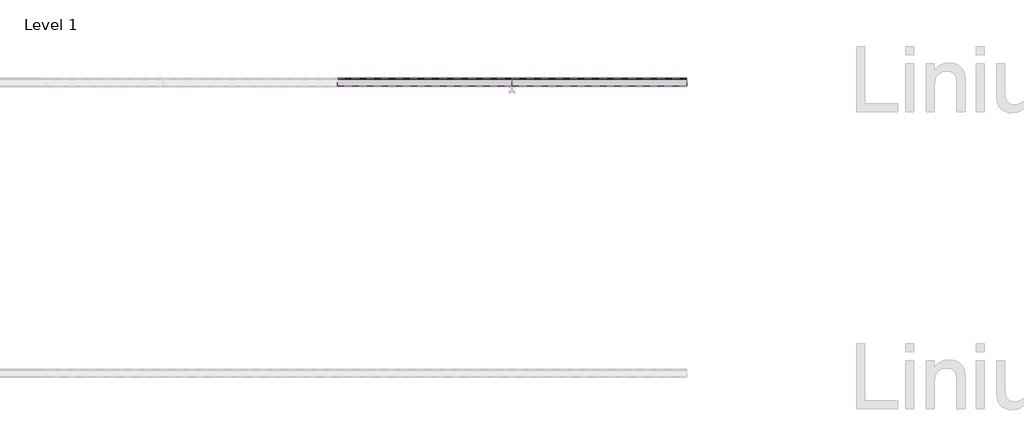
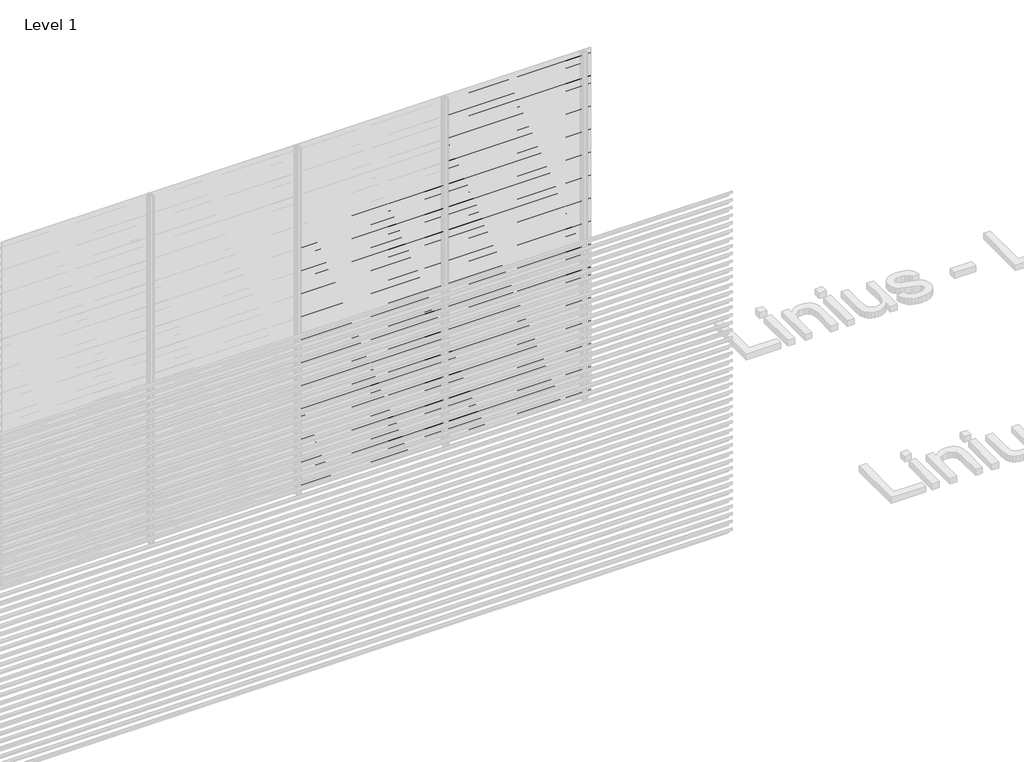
# One storey, part 33 of 540: 79 proxies.
"""IFC4 building model written with IfcOpenShell, lengths in millimetres."""

import ifcopenshell
import ifcopenshell.guid

model = None  # the IFC model being written
_history = None  # IfcOwnerHistory: only IFC2X3 demands one
_inside = {}  # id of a spatial element -> (the spatial element, [elements in it])
_under = {}  # id of a project, library or spatial element -> (it, [spatial elements below it])
_declared = {}  # id of a project -> (the project, [libraries it declares])
_typed = {}  # id of a type object -> (the type object, [elements of that type])
_made_of = {}  # id of a material, layer set ... -> (it, [elements and type objects made of it])


def new_model(schema):
    """Start an empty IFC model of exactly this schema.

    Asked for "IFC4X3", IfcOpenShell would pick the latest addendum, in which some entities
    have other attributes; the version numbers below select the first issue.
    IFC2X3 requires an IfcOwnerHistory on every rooted entity: one is made here for all.
    """
    global model, _history
    if schema == "IFC4X3":
        model = ifcopenshell.file(schema_version=(4, 3, 0, 0))
    else:
        model = ifcopenshell.file(schema=schema)
    _inside.clear()
    _under.clear()
    _declared.clear()
    _typed.clear()
    _made_of.clear()
    _history = None
    if model.schema == "IFC2X3":
        org = make("IfcOrganization", Name="unknown")
        user = make(
            "IfcPersonAndOrganization",
            ThePerson=make("IfcPerson", FamilyName="unknown"),
            TheOrganization=org,
        )
        app = make(
            "IfcApplication",
            ApplicationDeveloper=org,
            Version="unknown",
            ApplicationFullName="unknown",
            ApplicationIdentifier="unknown",
        )
        _history = make(
            "IfcOwnerHistory",
            OwningUser=user,
            OwningApplication=app,
            ChangeAction="ADDED",
            CreationDate=0,
        )
    return model


def make(cls, **values):
    """One entity of the class cls with the attributes given. An attribute that is None is left unset."""
    return model.create_entity(
        cls, **{name: value for name, value in values.items() if value is not None}
    )


def rooted(cls, **values):
    """An entity with a GlobalId (a new one), such as an element, a storey or a relation."""
    return make(cls, GlobalId=ifcopenshell.guid.new(), OwnerHistory=_history, **values)


def si_unit(unit_type, name, prefix=None):
    """IfcSIUnit, for example si_unit("LENGTHUNIT", "METRE", prefix="MILLI")."""
    return make("IfcSIUnit", UnitType=unit_type, Prefix=prefix, Name=name)


def assignment(units):
    """IfcUnitAssignment: the units of a project."""
    return None if units is None else make("IfcUnitAssignment", Units=units)


def point(xyz):
    """IfcCartesianPoint."""
    return None if xyz is None else make("IfcCartesianPoint", Coordinates=xyz)


def direction(xyz):
    """IfcDirection."""
    return None if xyz is None else make("IfcDirection", DirectionRatios=xyz)


def frame(location, z_axis=None, x_axis=None):
    """IfcAxis2Placement3D, a coordinate frame: its origin and axes. An axis left out is left unset."""
    return make(
        "IfcAxis2Placement3D",
        Location=point(location),
        Axis=direction(z_axis),
        RefDirection=direction(x_axis),
    )


def origin():
    """The frame at (0, 0, 0) with its axes left unset."""
    return frame((0.0, 0.0, 0.0))


def place(relative_to, where):
    """IfcLocalPlacement: puts the frame where relative to a parent placement (None: the world)."""
    return make(
        "IfcLocalPlacement", PlacementRelTo=relative_to, RelativePlacement=where
    )


def context(
    kind, dimensions, precision=None, world=None, true_north=None, identifier=None
):
    """IfcGeometricRepresentationContext, for example the 3D "Model" context."""
    return make(
        "IfcGeometricRepresentationContext",
        ContextIdentifier=identifier,
        ContextType=kind,
        CoordinateSpaceDimension=dimensions,
        Precision=precision,
        WorldCoordinateSystem=world,
        TrueNorth=true_north,
    )


def project(units=None, contexts=None):
    """IfcProject with its units and contexts."""
    return rooted(
        "IfcProject",
        Name="project",
        RepresentationContexts=contexts,
        UnitsInContext=assignment(units),
    )


def spatial(cls, under=None, at=None, **own):
    """A site, building, storey or space (cls), placed at a placement, below another one or the project."""
    s = rooted(cls, ObjectPlacement=at, **own)
    if under is not None:
        _under.setdefault(under.id(), (under, []))[1].append(s)
    return s


def polyline(points):
    """IfcPolyline through the points."""
    return make("IfcPolyline", Points=[point(p) for p in points])


def outline(outer, holes=None, kind="AREA"):
    """IfcArbitraryClosedProfileDef: a profile drawn as a closed curve; with holes, ...WithVoids."""
    if holes is None:
        return make("IfcArbitraryClosedProfileDef", ProfileType=kind, OuterCurve=outer)
    return make(
        "IfcArbitraryProfileDefWithVoids",
        ProfileType=kind,
        OuterCurve=outer,
        InnerCurves=holes,
    )


def extrude(swept, where, along, depth):
    """IfcExtrudedAreaSolid: the profile swept, set in the frame where, extruded along a direction by depth."""
    return make(
        "IfcExtrudedAreaSolid",
        SweptArea=swept,
        Position=where,
        ExtrudedDirection=direction(along),
        Depth=depth,
    )


def shape(context_of_items, identifier, shape_type, items):
    """IfcShapeRepresentation: the items that make up one representation, for example the "Body"."""
    return make(
        "IfcShapeRepresentation",
        ContextOfItems=context_of_items,
        RepresentationIdentifier=identifier,
        RepresentationType=shape_type,
        Items=items,
    )


def made_of(thing, what):
    """Note that an element or type object is made of a material, layer set ...; save() writes the relation."""
    if what is not None:
        _made_of.setdefault(what.id(), (what, []))[1].append(thing)
    return thing


def element(
    cls,
    number,
    at=None,
    inside=None,
    cuts=None,
    type_object=None,
    material=None,
    context=None,
    identifier="Body",
    shape_type=None,
    held_by="IfcProductDefinitionShape",
    body=None,
    shapes=None,
    **own,
):
    """One element of the class cls, such as IfcWall. Its Tag is "e" and its number.

    at: its placement. inside: the storey or other place that contains it. cuts: it is an
    opening in that element (IfcRelVoidsElement). A single representation is given by context,
    identifier, shape_type and body (its items); several are given by shapes. held_by: the class
    of the entity that holds the representations. save() writes the other relations.
    """
    e = rooted(cls, Tag="e%d" % number, ObjectPlacement=at, **own)
    if body is not None:
        shapes = [shape(context, identifier, shape_type, body)]
    if shapes is not None:
        e.Representation = make(held_by, Representations=shapes)
    if inside is not None:
        _inside.setdefault(inside.id(), (inside, []))[1].append(e)
    if cuts is not None:
        rooted(
            "IfcRelVoidsElement", RelatingBuildingElement=cuts, RelatedOpeningElement=e
        )
    if type_object is not None:
        _typed.setdefault(type_object.id(), (type_object, []))[1].append(e)
    return made_of(e, material)


def aggregate(whole, parts):
    """IfcRelAggregates: a whole, such as a stair, and the parts it consists of."""
    return rooted("IfcRelAggregates", RelatingObject=whole, RelatedObjects=parts)


def save(model, path):
    """Write the relations noted so far, then the file.

    IfcRelAggregates (storeys below a building ...), IfcRelContainedInSpatialStructure (elements
    in a storey), IfcRelDefinesByType, IfcRelAssociatesMaterial and IfcRelDeclares: one each for
    every whole, place, type object, material and project.
    """
    for whole, parts in _under.values():
        aggregate(whole, parts)
    for where, things in _inside.values():
        rooted(
            "IfcRelContainedInSpatialStructure",
            RelatedElements=things,
            RelatingStructure=where,
        )
    for kind, things in _typed.values():
        rooted("IfcRelDefinesByType", RelatedObjects=things, RelatingType=kind)
    for what, things in _made_of.values():
        rooted("IfcRelAssociatesMaterial", RelatedObjects=things, RelatingMaterial=what)
    for by, libraries in _declared.values():
        rooted("IfcRelDeclares", RelatingContext=by, RelatedDefinitions=libraries)
    model.write(path)


model = new_model("IFC4")

# Units and contexts
model_context = context("Model", 3, world=origin())
ifc_project = project(units=[si_unit("LENGTHUNIT", "METRE", prefix="MILLI")], contexts=[model_context])

# Site, building, storey
site = spatial("IfcSite", under=ifc_project)
building = spatial("IfcBuilding", under=site)
storey = spatial("IfcBuildingStorey", under=building, Name="Level 1", Elevation=0.0)

# Proxies
placement = place(None, origin())
element("IfcBuildingElementProxy", 1, Name="Wall Sweeps", at=placement, inside=storey, context=model_context, shape_type="SweptSolid", body=[
    extrude(outline(polyline([(21581.0540136, 2913.5), (21581.0540136, 2893.5), (21579.8040136, 2894.2216933), (21579.8040136, 2912.7872415), (21526.0540136, 2950.3158044), (21526.0540136, 2970.0), (21527.3040136, 2970.0), (21527.3040136, 2951.0285629), (21581.0540136, 2913.5)])), frame((5266.6208095, 0.0, 0.0), z_axis=(1.0, 0.0, 0.0), x_axis=(0.0, 1.0, 0.0)), (0.0, 0.0, 1.0), 1200.0000002),
])
element("IfcBuildingElementProxy", 2, Name="Wall Sweeps", at=placement, inside=storey, context=model_context, shape_type="SweptSolid", body=[
    extrude(outline(polyline([(21581.0540136, 2847.5), (21581.0540136, 2827.5), (21579.8040136, 2828.2216933), (21579.8040136, 2846.7872415), (21526.0540136, 2884.3158044), (21526.0540136, 2904.0), (21527.3040136, 2904.0), (21527.3040136, 2885.0285629), (21581.0540136, 2847.5)])), frame((5266.6208095, 0.0, 0.0), z_axis=(1.0, 0.0, 0.0), x_axis=(0.0, 1.0, 0.0)), (0.0, 0.0, 1.0), 1200.0000002),
])
element("IfcBuildingElementProxy", 3, Name="Wall Sweeps", at=placement, inside=storey, context=model_context, shape_type="SweptSolid", body=[
    extrude(outline(polyline([(21581.0540136, 2781.5), (21581.0540136, 2761.5), (21579.8040136, 2762.2216933), (21579.8040136, 2780.7872415), (21526.0540136, 2818.3158044), (21526.0540136, 2838.0), (21527.3040136, 2838.0), (21527.3040136, 2819.0285629), (21581.0540136, 2781.5)])), frame((5266.6208095, 0.0, 0.0), z_axis=(1.0, 0.0, 0.0), x_axis=(0.0, 1.0, 0.0)), (0.0, 0.0, 1.0), 1200.0000002),
])
element("IfcBuildingElementProxy", 4, Name="Wall Sweeps", at=placement, inside=storey, context=model_context, shape_type="SweptSolid", body=[
    extrude(outline(polyline([(21581.0540136, 2715.5), (21581.0540136, 2695.5), (21579.8040136, 2696.2216933), (21579.8040136, 2714.7872415), (21526.0540136, 2752.3158044), (21526.0540136, 2772.0), (21527.3040136, 2772.0), (21527.3040136, 2753.0285629), (21581.0540136, 2715.5)])), frame((5266.6208095, 0.0, 0.0), z_axis=(1.0, 0.0, 0.0), x_axis=(0.0, 1.0, 0.0)), (0.0, 0.0, 1.0), 1200.0000002),
])
element("IfcBuildingElementProxy", 5, Name="Wall Sweeps", at=placement, inside=storey, context=model_context, shape_type="SweptSolid", body=[
    extrude(outline(polyline([(21581.0540136, 2649.5), (21581.0540136, 2629.5), (21579.8040136, 2630.2216933), (21579.8040136, 2648.7872415), (21526.0540136, 2686.3158044), (21526.0540136, 2706.0), (21527.3040136, 2706.0), (21527.3040136, 2687.0285629), (21581.0540136, 2649.5)])), frame((5266.6208095, 0.0, 0.0), z_axis=(1.0, 0.0, 0.0), x_axis=(0.0, 1.0, 0.0)), (0.0, 0.0, 1.0), 1200.0000002),
])
element("IfcBuildingElementProxy", 6, Name="Wall Sweeps", at=placement, inside=storey, context=model_context, shape_type="SweptSolid", body=[
    extrude(outline(polyline([(21581.0540136, 2583.5), (21581.0540136, 2563.5), (21579.8040136, 2564.2216933), (21579.8040136, 2582.7872415), (21526.0540136, 2620.3158044), (21526.0540136, 2640.0), (21527.3040136, 2640.0), (21527.3040136, 2621.0285629), (21581.0540136, 2583.5)])), frame((5266.6208095, 0.0, 0.0), z_axis=(1.0, 0.0, 0.0), x_axis=(0.0, 1.0, 0.0)), (0.0, 0.0, 1.0), 1200.0000002),
])
element("IfcBuildingElementProxy", 7, Name="Wall Sweeps", at=placement, inside=storey, context=model_context, shape_type="SweptSolid", body=[
    extrude(outline(polyline([(21581.0540136, 2517.5), (21581.0540136, 2497.5), (21579.8040136, 2498.2216933), (21579.8040136, 2516.7872415), (21526.0540136, 2554.3158044), (21526.0540136, 2574.0), (21527.3040136, 2574.0), (21527.3040136, 2555.0285629), (21581.0540136, 2517.5)])), frame((5266.6208095, 0.0, 0.0), z_axis=(1.0, 0.0, 0.0), x_axis=(0.0, 1.0, 0.0)), (0.0, 0.0, 1.0), 1200.0000002),
])
element("IfcBuildingElementProxy", 8, Name="Wall Sweeps", at=placement, inside=storey, context=model_context, shape_type="SweptSolid", body=[
    extrude(outline(polyline([(21581.0540136, 2451.5), (21581.0540136, 2431.5), (21579.8040136, 2432.2216933), (21579.8040136, 2450.7872415), (21526.0540136, 2488.3158044), (21526.0540136, 2508.0), (21527.3040136, 2508.0), (21527.3040136, 2489.0285629), (21581.0540136, 2451.5)])), frame((5266.6208095, 0.0, 0.0), z_axis=(1.0, 0.0, 0.0), x_axis=(0.0, 1.0, 0.0)), (0.0, 0.0, 1.0), 1200.0000002),
])
element("IfcBuildingElementProxy", 9, Name="Wall Sweeps", at=placement, inside=storey, context=model_context, shape_type="SweptSolid", body=[
    extrude(outline(polyline([(21581.0540136, 2385.5), (21581.0540136, 2365.5), (21579.8040136, 2366.2216933), (21579.8040136, 2384.7872415), (21526.0540136, 2422.3158044), (21526.0540136, 2442.0), (21527.3040136, 2442.0), (21527.3040136, 2423.0285629), (21581.0540136, 2385.5)])), frame((5266.6208095, 0.0, 0.0), z_axis=(1.0, 0.0, 0.0), x_axis=(0.0, 1.0, 0.0)), (0.0, 0.0, 1.0), 1200.0000002),
])
element("IfcBuildingElementProxy", 10, Name="Wall Sweeps", at=placement, inside=storey, context=model_context, shape_type="SweptSolid", body=[
    extrude(outline(polyline([(21581.0540136, 2319.5), (21581.0540136, 2299.5), (21579.8040136, 2300.2216933), (21579.8040136, 2318.7872415), (21526.0540136, 2356.3158044), (21526.0540136, 2376.0), (21527.3040136, 2376.0), (21527.3040136, 2357.0285629), (21581.0540136, 2319.5)])), frame((5266.6208095, 0.0, 0.0), z_axis=(1.0, 0.0, 0.0), x_axis=(0.0, 1.0, 0.0)), (0.0, 0.0, 1.0), 1200.0000002),
])
element("IfcBuildingElementProxy", 11, Name="Wall Sweeps", at=placement, inside=storey, context=model_context, shape_type="SweptSolid", body=[
    extrude(outline(polyline([(21581.0540136, 2253.5), (21581.0540136, 2233.5), (21579.8040136, 2234.2216933), (21579.8040136, 2252.7872415), (21526.0540136, 2290.3158044), (21526.0540136, 2310.0), (21527.3040136, 2310.0), (21527.3040136, 2291.0285629), (21581.0540136, 2253.5)])), frame((5266.6208095, 0.0, 0.0), z_axis=(1.0, 0.0, 0.0), x_axis=(0.0, 1.0, 0.0)), (0.0, 0.0, 1.0), 1200.0000002),
])
element("IfcBuildingElementProxy", 12, Name="Wall Sweeps", at=placement, inside=storey, context=model_context, shape_type="SweptSolid", body=[
    extrude(outline(polyline([(21581.0540136, 2187.5), (21581.0540136, 2167.5), (21579.8040136, 2168.2216933), (21579.8040136, 2186.7872415), (21526.0540136, 2224.3158044), (21526.0540136, 2244.0), (21527.3040136, 2244.0), (21527.3040136, 2225.0285629), (21581.0540136, 2187.5)])), frame((5266.6208095, 0.0, 0.0), z_axis=(1.0, 0.0, 0.0), x_axis=(0.0, 1.0, 0.0)), (0.0, 0.0, 1.0), 1200.0000002),
])
element("IfcBuildingElementProxy", 13, Name="Wall Sweeps", at=placement, inside=storey, context=model_context, shape_type="SweptSolid", body=[
    extrude(outline(polyline([(21581.0540136, 2121.5), (21581.0540136, 2101.5), (21579.8040136, 2102.2216933), (21579.8040136, 2120.7872415), (21526.0540136, 2158.3158044), (21526.0540136, 2178.0), (21527.3040136, 2178.0), (21527.3040136, 2159.0285629), (21581.0540136, 2121.5)])), frame((5266.6208095, 0.0, 0.0), z_axis=(1.0, 0.0, 0.0), x_axis=(0.0, 1.0, 0.0)), (0.0, 0.0, 1.0), 1200.0000002),
])
element("IfcBuildingElementProxy", 14, Name="Wall Sweeps", at=placement, inside=storey, context=model_context, shape_type="SweptSolid", body=[
    extrude(outline(polyline([(21581.0540136, 2055.5), (21581.0540136, 2035.5), (21579.8040136, 2036.2216933), (21579.8040136, 2054.7872415), (21526.0540136, 2092.3158044), (21526.0540136, 2112.0), (21527.3040136, 2112.0), (21527.3040136, 2093.0285629), (21581.0540136, 2055.5)])), frame((5266.6208095, 0.0, 0.0), z_axis=(1.0, 0.0, 0.0), x_axis=(0.0, 1.0, 0.0)), (0.0, 0.0, 1.0), 1200.0000002),
])
element("IfcBuildingElementProxy", 15, Name="Wall Sweeps", at=placement, inside=storey, context=model_context, shape_type="SweptSolid", body=[
    extrude(outline(polyline([(21581.0540136, 1989.5), (21581.0540136, 1969.5), (21579.8040136, 1970.2216933), (21579.8040136, 1988.7872415), (21526.0540136, 2026.3158044), (21526.0540136, 2046.0), (21527.3040136, 2046.0), (21527.3040136, 2027.0285629), (21581.0540136, 1989.5)])), frame((5266.6208095, 0.0, 0.0), z_axis=(1.0, 0.0, 0.0), x_axis=(0.0, 1.0, 0.0)), (0.0, 0.0, 1.0), 1200.0000002),
])
element("IfcBuildingElementProxy", 16, Name="Wall Sweeps", at=placement, inside=storey, context=model_context, shape_type="SweptSolid", body=[
    extrude(outline(polyline([(21581.0540136, 1923.5), (21581.0540136, 1903.5), (21579.8040136, 1904.2216933), (21579.8040136, 1922.7872415), (21526.0540136, 1960.3158044), (21526.0540136, 1980.0), (21527.3040136, 1980.0), (21527.3040136, 1961.0285629), (21581.0540136, 1923.5)])), frame((5266.6208095, 0.0, 0.0), z_axis=(1.0, 0.0, 0.0), x_axis=(0.0, 1.0, 0.0)), (0.0, 0.0, 1.0), 1200.0000002),
])
element("IfcBuildingElementProxy", 17, Name="Wall Sweeps", at=placement, inside=storey, context=model_context, shape_type="SweptSolid", body=[
    extrude(outline(polyline([(21581.0540136, 1857.5), (21581.0540136, 1837.5), (21579.8040136, 1838.2216933), (21579.8040136, 1856.7872415), (21526.0540136, 1894.3158044), (21526.0540136, 1914.0), (21527.3040136, 1914.0), (21527.3040136, 1895.0285629), (21581.0540136, 1857.5)])), frame((5266.6208095, 0.0, 0.0), z_axis=(1.0, 0.0, 0.0), x_axis=(0.0, 1.0, 0.0)), (0.0, 0.0, 1.0), 1200.0000002),
])
element("IfcBuildingElementProxy", 18, Name="Wall Sweeps", at=placement, inside=storey, context=model_context, shape_type="SweptSolid", body=[
    extrude(outline(polyline([(21581.0540136, 1791.5), (21581.0540136, 1771.5), (21579.8040136, 1772.2216933), (21579.8040136, 1790.7872415), (21526.0540136, 1828.3158044), (21526.0540136, 1848.0), (21527.3040136, 1848.0), (21527.3040136, 1829.0285629), (21581.0540136, 1791.5)])), frame((5266.6208095, 0.0, 0.0), z_axis=(1.0, 0.0, 0.0), x_axis=(0.0, 1.0, 0.0)), (0.0, 0.0, 1.0), 1200.0000002),
])
element("IfcBuildingElementProxy", 19, Name="Wall Sweeps", at=placement, inside=storey, context=model_context, shape_type="SweptSolid", body=[
    extrude(outline(polyline([(21581.0540136, 1725.5), (21581.0540136, 1705.5), (21579.8040136, 1706.2216933), (21579.8040136, 1724.7872415), (21526.0540136, 1762.3158044), (21526.0540136, 1782.0), (21527.3040136, 1782.0), (21527.3040136, 1763.0285629), (21581.0540136, 1725.5)])), frame((5266.6208095, 0.0, 0.0), z_axis=(1.0, 0.0, 0.0), x_axis=(0.0, 1.0, 0.0)), (0.0, 0.0, 1.0), 1200.0000002),
])
element("IfcBuildingElementProxy", 20, Name="Wall Sweeps", at=placement, inside=storey, context=model_context, shape_type="SweptSolid", body=[
    extrude(outline(polyline([(21581.0540136, 1659.5), (21581.0540136, 1639.5), (21579.8040136, 1640.2216933), (21579.8040136, 1658.7872415), (21526.0540136, 1696.3158044), (21526.0540136, 1716.0), (21527.3040136, 1716.0), (21527.3040136, 1697.0285629), (21581.0540136, 1659.5)])), frame((5266.6208095, 0.0, 0.0), z_axis=(1.0, 0.0, 0.0), x_axis=(0.0, 1.0, 0.0)), (0.0, 0.0, 1.0), 1200.0000002),
])
element("IfcBuildingElementProxy", 21, Name="Wall Sweeps", at=placement, inside=storey, context=model_context, shape_type="SweptSolid", body=[
    extrude(outline(polyline([(21581.0540136, 1593.5), (21581.0540136, 1573.5), (21579.8040136, 1574.2216933), (21579.8040136, 1592.7872415), (21526.0540136, 1630.3158044), (21526.0540136, 1650.0), (21527.3040136, 1650.0), (21527.3040136, 1631.0285629), (21581.0540136, 1593.5)])), frame((5266.6208095, 0.0, 0.0), z_axis=(1.0, 0.0, 0.0), x_axis=(0.0, 1.0, 0.0)), (0.0, 0.0, 1.0), 1200.0000002),
])
element("IfcBuildingElementProxy", 22, Name="Wall Sweeps", at=placement, inside=storey, context=model_context, shape_type="SweptSolid", body=[
    extrude(outline(polyline([(21581.0540136, 1527.5), (21581.0540136, 1507.5), (21579.8040136, 1508.2216933), (21579.8040136, 1526.7872415), (21526.0540136, 1564.3158044), (21526.0540136, 1584.0), (21527.3040136, 1584.0), (21527.3040136, 1565.0285629), (21581.0540136, 1527.5)])), frame((5266.6208095, 0.0, 0.0), z_axis=(1.0, 0.0, 0.0), x_axis=(0.0, 1.0, 0.0)), (0.0, 0.0, 1.0), 1200.0000002),
])
element("IfcBuildingElementProxy", 23, Name="Wall Sweeps", at=placement, inside=storey, context=model_context, shape_type="SweptSolid", body=[
    extrude(outline(polyline([(21581.0540136, 1461.5), (21581.0540136, 1441.5), (21579.8040136, 1442.2216933), (21579.8040136, 1460.7872415), (21526.0540136, 1498.3158044), (21526.0540136, 1518.0), (21527.3040136, 1518.0), (21527.3040136, 1499.0285629), (21581.0540136, 1461.5)])), frame((5266.6208095, 0.0, 0.0), z_axis=(1.0, 0.0, 0.0), x_axis=(0.0, 1.0, 0.0)), (0.0, 0.0, 1.0), 1200.0000002),
])
element("IfcBuildingElementProxy", 24, Name="Wall Sweeps", at=placement, inside=storey, context=model_context, shape_type="SweptSolid", body=[
    extrude(outline(polyline([(21581.0540136, 1395.5), (21581.0540136, 1375.5), (21579.8040136, 1376.2216933), (21579.8040136, 1394.7872415), (21526.0540136, 1432.3158044), (21526.0540136, 1452.0), (21527.3040136, 1452.0), (21527.3040136, 1433.0285629), (21581.0540136, 1395.5)])), frame((5266.6208095, 0.0, 0.0), z_axis=(1.0, 0.0, 0.0), x_axis=(0.0, 1.0, 0.0)), (0.0, 0.0, 1.0), 1200.0000002),
])
element("IfcBuildingElementProxy", 25, Name="Wall Sweeps", at=placement, inside=storey, context=model_context, shape_type="SweptSolid", body=[
    extrude(outline(polyline([(21581.0540136, 1329.5), (21581.0540136, 1309.5), (21579.8040136, 1310.2216933), (21579.8040136, 1328.7872415), (21526.0540136, 1366.3158044), (21526.0540136, 1386.0), (21527.3040136, 1386.0), (21527.3040136, 1367.0285629), (21581.0540136, 1329.5)])), frame((5266.6208095, 0.0, 0.0), z_axis=(1.0, 0.0, 0.0), x_axis=(0.0, 1.0, 0.0)), (0.0, 0.0, 1.0), 1200.0000002),
])
element("IfcBuildingElementProxy", 26, Name="Wall Sweeps", at=placement, inside=storey, context=model_context, shape_type="SweptSolid", body=[
    extrude(outline(polyline([(21581.0540136, 1263.5), (21581.0540136, 1243.5), (21579.8040136, 1244.2216933), (21579.8040136, 1262.7872415), (21526.0540136, 1300.3158044), (21526.0540136, 1320.0), (21527.3040136, 1320.0), (21527.3040136, 1301.0285629), (21581.0540136, 1263.5)])), frame((5266.6208095, 0.0, 0.0), z_axis=(1.0, 0.0, 0.0), x_axis=(0.0, 1.0, 0.0)), (0.0, 0.0, 1.0), 1200.0000002),
])
element("IfcBuildingElementProxy", 27, Name="Wall Sweeps", at=placement, inside=storey, context=model_context, shape_type="SweptSolid", body=[
    extrude(outline(polyline([(21581.0540136, 1197.5), (21581.0540136, 1177.5), (21579.8040136, 1178.2216933), (21579.8040136, 1196.7872415), (21526.0540136, 1234.3158044), (21526.0540136, 1254.0), (21527.3040136, 1254.0), (21527.3040136, 1235.0285629), (21581.0540136, 1197.5)])), frame((5266.6208095, 0.0, 0.0), z_axis=(1.0, 0.0, 0.0), x_axis=(0.0, 1.0, 0.0)), (0.0, 0.0, 1.0), 1200.0000002),
])
element("IfcBuildingElementProxy", 28, Name="Wall Sweeps", at=placement, inside=storey, context=model_context, shape_type="SweptSolid", body=[
    extrude(outline(polyline([(21581.0540136, 1131.5), (21581.0540136, 1111.5), (21579.8040136, 1112.2216933), (21579.8040136, 1130.7872415), (21526.0540136, 1168.3158044), (21526.0540136, 1188.0), (21527.3040136, 1188.0), (21527.3040136, 1169.0285629), (21581.0540136, 1131.5)])), frame((5266.6208095, 0.0, 0.0), z_axis=(1.0, 0.0, 0.0), x_axis=(0.0, 1.0, 0.0)), (0.0, 0.0, 1.0), 1200.0000002),
])
element("IfcBuildingElementProxy", 29, Name="Wall Sweeps", at=placement, inside=storey, context=model_context, shape_type="SweptSolid", body=[
    extrude(outline(polyline([(21581.0540136, 1065.5), (21581.0540136, 1045.5), (21579.8040136, 1046.2216933), (21579.8040136, 1064.7872415), (21526.0540136, 1102.3158044), (21526.0540136, 1122.0), (21527.3040136, 1122.0), (21527.3040136, 1103.0285629), (21581.0540136, 1065.5)])), frame((5266.6208095, 0.0, 0.0), z_axis=(1.0, 0.0, 0.0), x_axis=(0.0, 1.0, 0.0)), (0.0, 0.0, 1.0), 1200.0000002),
])
element("IfcBuildingElementProxy", 30, Name="Wall Sweeps", at=placement, inside=storey, context=model_context, shape_type="SweptSolid", body=[
    extrude(outline(polyline([(21581.0540136, 999.5), (21581.0540136, 979.5), (21579.8040136, 980.2216933), (21579.8040136, 998.7872415), (21526.0540136, 1036.3158044), (21526.0540136, 1056.0), (21527.3040136, 1056.0), (21527.3040136, 1037.0285629), (21581.0540136, 999.5)])), frame((5266.6208095, 0.0, 0.0), z_axis=(1.0, 0.0, 0.0), x_axis=(0.0, 1.0, 0.0)), (0.0, 0.0, 1.0), 1200.0000002),
])
element("IfcBuildingElementProxy", 31, Name="Wall Sweeps", at=placement, inside=storey, context=model_context, shape_type="SweptSolid", body=[
    extrude(outline(polyline([(21581.0540136, 933.5), (21581.0540136, 913.5), (21579.8040136, 914.2216933), (21579.8040136, 932.7872415), (21526.0540136, 970.3158044), (21526.0540136, 990.0), (21527.3040136, 990.0), (21527.3040136, 971.0285629), (21581.0540136, 933.5)])), frame((5266.6208095, 0.0, 0.0), z_axis=(1.0, 0.0, 0.0), x_axis=(0.0, 1.0, 0.0)), (0.0, 0.0, 1.0), 1200.0000002),
])
element("IfcBuildingElementProxy", 32, Name="Wall Sweeps", at=placement, inside=storey, context=model_context, shape_type="SweptSolid", body=[
    extrude(outline(polyline([(21581.0540136, 867.5), (21581.0540136, 847.5), (21579.8040136, 848.2216933), (21579.8040136, 866.7872415), (21526.0540136, 904.3158044), (21526.0540136, 924.0), (21527.3040136, 924.0), (21527.3040136, 905.0285629), (21581.0540136, 867.5)])), frame((5266.6208095, 0.0, 0.0), z_axis=(1.0, 0.0, 0.0), x_axis=(0.0, 1.0, 0.0)), (0.0, 0.0, 1.0), 1200.0000002),
])
element("IfcBuildingElementProxy", 33, Name="Wall Sweeps", at=placement, inside=storey, context=model_context, shape_type="SweptSolid", body=[
    extrude(outline(polyline([(21581.0540136, 801.5), (21581.0540136, 781.5), (21579.8040136, 782.2216933), (21579.8040136, 800.7872415), (21526.0540136, 838.3158044), (21526.0540136, 858.0), (21527.3040136, 858.0), (21527.3040136, 839.0285629), (21581.0540136, 801.5)])), frame((5266.6208095, 0.0, 0.0), z_axis=(1.0, 0.0, 0.0), x_axis=(0.0, 1.0, 0.0)), (0.0, 0.0, 1.0), 1200.0000002),
])
element("IfcBuildingElementProxy", 34, Name="Wall Sweeps", at=placement, inside=storey, context=model_context, shape_type="SweptSolid", body=[
    extrude(outline(polyline([(21581.0540136, 735.5), (21581.0540136, 715.5), (21579.8040136, 716.2216933), (21579.8040136, 734.7872415), (21526.0540136, 772.3158044), (21526.0540136, 792.0), (21527.3040136, 792.0), (21527.3040136, 773.0285629), (21581.0540136, 735.5)])), frame((5266.6208095, 0.0, 0.0), z_axis=(1.0, 0.0, 0.0), x_axis=(0.0, 1.0, 0.0)), (0.0, 0.0, 1.0), 1200.0000002),
])
element("IfcBuildingElementProxy", 35, Name="Wall Sweeps", at=placement, inside=storey, context=model_context, shape_type="SweptSolid", body=[
    extrude(outline(polyline([(21581.0540136, 669.5), (21581.0540136, 649.5), (21579.8040136, 650.2216933), (21579.8040136, 668.7872415), (21526.0540136, 706.3158044), (21526.0540136, 726.0), (21527.3040136, 726.0), (21527.3040136, 707.0285629), (21581.0540136, 669.5)])), frame((5266.6208095, 0.0, 0.0), z_axis=(1.0, 0.0, 0.0), x_axis=(0.0, 1.0, 0.0)), (0.0, 0.0, 1.0), 1200.0000002),
])
element("IfcBuildingElementProxy", 36, Name="Wall Sweeps", at=placement, inside=storey, context=model_context, shape_type="SweptSolid", body=[
    extrude(outline(polyline([(21581.0540136, 603.5), (21581.0540136, 583.5), (21579.8040136, 584.2216933), (21579.8040136, 602.7872415), (21526.0540136, 640.3158044), (21526.0540136, 660.0), (21527.3040136, 660.0), (21527.3040136, 641.0285629), (21581.0540136, 603.5)])), frame((5266.6208095, 0.0, 0.0), z_axis=(1.0, 0.0, 0.0), x_axis=(0.0, 1.0, 0.0)), (0.0, 0.0, 1.0), 1200.0000002),
])
element("IfcBuildingElementProxy", 37, Name="Wall Sweeps", at=placement, inside=storey, context=model_context, shape_type="SweptSolid", body=[
    extrude(outline(polyline([(21581.0540136, 537.5), (21581.0540136, 517.5), (21579.8040136, 518.2216933), (21579.8040136, 536.7872415), (21526.0540136, 574.3158044), (21526.0540136, 594.0), (21527.3040136, 594.0), (21527.3040136, 575.0285629), (21581.0540136, 537.5)])), frame((5266.6208095, 0.0, 0.0), z_axis=(1.0, 0.0, 0.0), x_axis=(0.0, 1.0, 0.0)), (0.0, 0.0, 1.0), 1200.0000002),
])
element("IfcBuildingElementProxy", 38, Name="Wall Sweeps", at=placement, inside=storey, context=model_context, shape_type="SweptSolid", body=[
    extrude(outline(polyline([(21581.0540136, 471.5), (21581.0540136, 451.5), (21579.8040136, 452.2216933), (21579.8040136, 470.7872415), (21526.0540136, 508.3158044), (21526.0540136, 528.0), (21527.3040136, 528.0), (21527.3040136, 509.0285629), (21581.0540136, 471.5)])), frame((5266.6208095, 0.0, 0.0), z_axis=(1.0, 0.0, 0.0), x_axis=(0.0, 1.0, 0.0)), (0.0, 0.0, 1.0), 1200.0000002),
])
element("IfcBuildingElementProxy", 39, Name="Wall Sweeps", at=placement, inside=storey, context=model_context, shape_type="SweptSolid", body=[
    extrude(outline(polyline([(21581.0540136, 405.5), (21581.0540136, 385.5), (21579.8040136, 386.2216933), (21579.8040136, 404.7872415), (21526.0540136, 442.3158044), (21526.0540136, 462.0), (21527.3040136, 462.0), (21527.3040136, 443.0285629), (21581.0540136, 405.5)])), frame((5266.6208095, 0.0, 0.0), z_axis=(1.0, 0.0, 0.0), x_axis=(0.0, 1.0, 0.0)), (0.0, 0.0, 1.0), 1200.0000002),
])
element("IfcBuildingElementProxy", 40, Name="Wall Sweeps", at=placement, inside=storey, context=model_context, shape_type="SweptSolid", body=[
    extrude(outline(polyline([(21581.0540136, 339.5), (21581.0540136, 319.5), (21579.8040136, 320.2216933), (21579.8040136, 338.7872415), (21526.0540136, 376.3158044), (21526.0540136, 396.0), (21527.3040136, 396.0), (21527.3040136, 377.0285629), (21581.0540136, 339.5)])), frame((5266.6208095, 0.0, 0.0), z_axis=(1.0, 0.0, 0.0), x_axis=(0.0, 1.0, 0.0)), (0.0, 0.0, 1.0), 1200.0000002),
])
element("IfcBuildingElementProxy", 41, Name="Wall Sweeps", at=placement, inside=storey, context=model_context, shape_type="SweptSolid", body=[
    extrude(outline(polyline([(21581.0540136, 273.5), (21581.0540136, 253.5), (21579.8040136, 254.2216933), (21579.8040136, 272.7872415), (21526.0540136, 310.3158044), (21526.0540136, 330.0), (21527.3040136, 330.0), (21527.3040136, 311.0285629), (21581.0540136, 273.5)])), frame((5266.6208095, 0.0, 0.0), z_axis=(1.0, 0.0, 0.0), x_axis=(0.0, 1.0, 0.0)), (0.0, 0.0, 1.0), 1200.0000002),
])
element("IfcBuildingElementProxy", 42, Name="Wall Sweeps", at=placement, inside=storey, context=model_context, shape_type="SweptSolid", body=[
    extrude(outline(polyline([(21581.0540136, 207.5), (21581.0540136, 187.5), (21579.8040136, 188.2216933), (21579.8040136, 206.7872415), (21526.0540136, 244.3158044), (21526.0540136, 264.0), (21527.3040136, 264.0), (21527.3040136, 245.0285629), (21581.0540136, 207.5)])), frame((5266.6208095, 0.0, 0.0), z_axis=(1.0, 0.0, 0.0), x_axis=(0.0, 1.0, 0.0)), (0.0, 0.0, 1.0), 1200.0000002),
])
element("IfcBuildingElementProxy", 43, Name="Wall Sweeps", at=placement, inside=storey, context=model_context, shape_type="SweptSolid", body=[
    extrude(outline(polyline([(21581.0540136, 141.5), (21581.0540136, 121.5), (21579.8040136, 122.2216933), (21579.8040136, 140.7872415), (21526.0540136, 178.3158044), (21526.0540136, 198.0), (21527.3040136, 198.0), (21527.3040136, 179.0285629), (21581.0540136, 141.5)])), frame((5266.6208095, 0.0, 0.0), z_axis=(1.0, 0.0, 0.0), x_axis=(0.0, 1.0, 0.0)), (0.0, 0.0, 1.0), 1200.0000002),
])
element("IfcBuildingElementProxy", 44, Name="Wall Sweeps", at=placement, inside=storey, context=model_context, shape_type="SweptSolid", body=[
    extrude(outline(polyline([(21581.0540136, 75.5), (21581.0540136, 55.5), (21579.8040136, 56.2216933), (21579.8040136, 74.7872415), (21526.0540136, 112.3158044), (21526.0540136, 132.0), (21527.3040136, 132.0), (21527.3040136, 113.0285629), (21581.0540136, 75.5)])), frame((5266.6208095, 0.0, 0.0), z_axis=(1.0, 0.0, 0.0), x_axis=(0.0, 1.0, 0.0)), (0.0, 0.0, 1.0), 1200.0000002),
])
element("IfcBuildingElementProxy", 45, Name="Wall Sweeps", at=placement, inside=storey, context=model_context, shape_type="SweptSolid", body=[
    extrude(outline(polyline([(21581.0540136, 9.5), (21581.0540136, -10.5), (21579.8040136, -9.7783067), (21579.8040136, 8.7872415), (21526.0540136, 46.3158044), (21526.0540136, 66.0), (21527.3040136, 66.0), (21527.3040136, 47.0285629), (21581.0540136, 9.5)])), frame((5266.6208095, 0.0, 0.0), z_axis=(1.0, 0.0, 0.0), x_axis=(0.0, 1.0, 0.0)), (0.0, 0.0, 1.0), 1200.0000002),
])
element("IfcBuildingElementProxy", 46, Name="Wall Sweeps", at=placement, inside=storey, context=model_context, shape_type="SweptSolid", body=[
    extrude(outline(polyline([(21581.0540136, 2187.5), (21581.0540136, 2167.5), (21579.8040136, 2168.2216933), (21579.8040136, 2186.7872415), (21526.0540136, 2224.3158044), (21526.0540136, 2244.0), (21527.3040136, 2244.0), (21527.3040136, 2225.0285629), (21581.0540136, 2187.5)])), frame((4066.6208096, 0.0, 0.0), z_axis=(1.0, 0.0, 0.0), x_axis=(0.0, 1.0, 0.0)), (0.0, 0.0, 1.0), 1199.9999999),
])
element("IfcBuildingElementProxy", 47, Name="Wall Sweeps", at=placement, inside=storey, context=model_context, shape_type="SweptSolid", body=[
    extrude(outline(polyline([(21581.0540136, 2121.5), (21581.0540136, 2101.5), (21579.8040136, 2102.2216933), (21579.8040136, 2120.7872415), (21526.0540136, 2158.3158044), (21526.0540136, 2178.0), (21527.3040136, 2178.0), (21527.3040136, 2159.0285629), (21581.0540136, 2121.5)])), frame((4066.6208096, 0.0, 0.0), z_axis=(1.0, 0.0, 0.0), x_axis=(0.0, 1.0, 0.0)), (0.0, 0.0, 1.0), 1199.9999999),
])
element("IfcBuildingElementProxy", 48, Name="Wall Sweeps", at=placement, inside=storey, context=model_context, shape_type="SweptSolid", body=[
    extrude(outline(polyline([(21581.0540136, 2055.5), (21581.0540136, 2035.5), (21579.8040136, 2036.2216933), (21579.8040136, 2054.7872415), (21526.0540136, 2092.3158044), (21526.0540136, 2112.0), (21527.3040136, 2112.0), (21527.3040136, 2093.0285629), (21581.0540136, 2055.5)])), frame((4066.6208096, 0.0, 0.0), z_axis=(1.0, 0.0, 0.0), x_axis=(0.0, 1.0, 0.0)), (0.0, 0.0, 1.0), 1199.9999999),
])
element("IfcBuildingElementProxy", 49, Name="Wall Sweeps", at=placement, inside=storey, context=model_context, shape_type="SweptSolid", body=[
    extrude(outline(polyline([(21581.0540136, 1989.5), (21581.0540136, 1969.5), (21579.8040136, 1970.2216933), (21579.8040136, 1988.7872415), (21526.0540136, 2026.3158044), (21526.0540136, 2046.0), (21527.3040136, 2046.0), (21527.3040136, 2027.0285629), (21581.0540136, 1989.5)])), frame((4066.6208096, 0.0, 0.0), z_axis=(1.0, 0.0, 0.0), x_axis=(0.0, 1.0, 0.0)), (0.0, 0.0, 1.0), 1199.9999999),
])
element("IfcBuildingElementProxy", 50, Name="Wall Sweeps", at=placement, inside=storey, context=model_context, shape_type="SweptSolid", body=[
    extrude(outline(polyline([(21581.0540136, 1923.5), (21581.0540136, 1903.5), (21579.8040136, 1904.2216933), (21579.8040136, 1922.7872415), (21526.0540136, 1960.3158044), (21526.0540136, 1980.0), (21527.3040136, 1980.0), (21527.3040136, 1961.0285629), (21581.0540136, 1923.5)])), frame((4066.6208096, 0.0, 0.0), z_axis=(1.0, 0.0, 0.0), x_axis=(0.0, 1.0, 0.0)), (0.0, 0.0, 1.0), 1199.9999999),
])
element("IfcBuildingElementProxy", 51, Name="Wall Sweeps", at=placement, inside=storey, context=model_context, shape_type="SweptSolid", body=[
    extrude(outline(polyline([(21581.0540136, 1857.5), (21581.0540136, 1837.5), (21579.8040136, 1838.2216933), (21579.8040136, 1856.7872415), (21526.0540136, 1894.3158044), (21526.0540136, 1914.0), (21527.3040136, 1914.0), (21527.3040136, 1895.0285629), (21581.0540136, 1857.5)])), frame((4066.6208096, 0.0, 0.0), z_axis=(1.0, 0.0, 0.0), x_axis=(0.0, 1.0, 0.0)), (0.0, 0.0, 1.0), 1199.9999999),
])
element("IfcBuildingElementProxy", 52, Name="Wall Sweeps", at=placement, inside=storey, context=model_context, shape_type="SweptSolid", body=[
    extrude(outline(polyline([(21581.0540136, 1791.5), (21581.0540136, 1771.5), (21579.8040136, 1772.2216933), (21579.8040136, 1790.7872415), (21526.0540136, 1828.3158044), (21526.0540136, 1848.0), (21527.3040136, 1848.0), (21527.3040136, 1829.0285629), (21581.0540136, 1791.5)])), frame((4066.6208096, 0.0, 0.0), z_axis=(1.0, 0.0, 0.0), x_axis=(0.0, 1.0, 0.0)), (0.0, 0.0, 1.0), 1199.9999999),
])
element("IfcBuildingElementProxy", 53, Name="Wall Sweeps", at=placement, inside=storey, context=model_context, shape_type="SweptSolid", body=[
    extrude(outline(polyline([(21581.0540136, 1725.5), (21581.0540136, 1705.5), (21579.8040136, 1706.2216933), (21579.8040136, 1724.7872415), (21526.0540136, 1762.3158044), (21526.0540136, 1782.0), (21527.3040136, 1782.0), (21527.3040136, 1763.0285629), (21581.0540136, 1725.5)])), frame((4066.6208096, 0.0, 0.0), z_axis=(1.0, 0.0, 0.0), x_axis=(0.0, 1.0, 0.0)), (0.0, 0.0, 1.0), 1199.9999999),
])
element("IfcBuildingElementProxy", 54, Name="Wall Sweeps", at=placement, inside=storey, context=model_context, shape_type="SweptSolid", body=[
    extrude(outline(polyline([(21581.0540136, 1659.5), (21581.0540136, 1639.5), (21579.8040136, 1640.2216933), (21579.8040136, 1658.7872415), (21526.0540136, 1696.3158044), (21526.0540136, 1716.0), (21527.3040136, 1716.0), (21527.3040136, 1697.0285629), (21581.0540136, 1659.5)])), frame((4066.6208096, 0.0, 0.0), z_axis=(1.0, 0.0, 0.0), x_axis=(0.0, 1.0, 0.0)), (0.0, 0.0, 1.0), 1199.9999999),
])
element("IfcBuildingElementProxy", 55, Name="Wall Sweeps", at=placement, inside=storey, context=model_context, shape_type="SweptSolid", body=[
    extrude(outline(polyline([(21581.0540136, 1593.5), (21581.0540136, 1573.5), (21579.8040136, 1574.2216933), (21579.8040136, 1592.7872415), (21526.0540136, 1630.3158044), (21526.0540136, 1650.0), (21527.3040136, 1650.0), (21527.3040136, 1631.0285629), (21581.0540136, 1593.5)])), frame((4066.6208096, 0.0, 0.0), z_axis=(1.0, 0.0, 0.0), x_axis=(0.0, 1.0, 0.0)), (0.0, 0.0, 1.0), 1199.9999999),
])
element("IfcBuildingElementProxy", 56, Name="Wall Sweeps", at=placement, inside=storey, context=model_context, shape_type="SweptSolid", body=[
    extrude(outline(polyline([(21581.0540136, 1527.5), (21581.0540136, 1507.5), (21579.8040136, 1508.2216933), (21579.8040136, 1526.7872415), (21526.0540136, 1564.3158044), (21526.0540136, 1584.0), (21527.3040136, 1584.0), (21527.3040136, 1565.0285629), (21581.0540136, 1527.5)])), frame((4066.6208096, 0.0, 0.0), z_axis=(1.0, 0.0, 0.0), x_axis=(0.0, 1.0, 0.0)), (0.0, 0.0, 1.0), 1199.9999999),
])
element("IfcBuildingElementProxy", 57, Name="Wall Sweeps", at=placement, inside=storey, context=model_context, shape_type="SweptSolid", body=[
    extrude(outline(polyline([(21581.0540136, 1461.5), (21581.0540136, 1441.5), (21579.8040136, 1442.2216933), (21579.8040136, 1460.7872415), (21526.0540136, 1498.3158044), (21526.0540136, 1518.0), (21527.3040136, 1518.0), (21527.3040136, 1499.0285629), (21581.0540136, 1461.5)])), frame((4066.6208096, 0.0, 0.0), z_axis=(1.0, 0.0, 0.0), x_axis=(0.0, 1.0, 0.0)), (0.0, 0.0, 1.0), 1199.9999999),
])
element("IfcBuildingElementProxy", 58, Name="Wall Sweeps", at=placement, inside=storey, context=model_context, shape_type="SweptSolid", body=[
    extrude(outline(polyline([(21581.0540136, 1395.5), (21581.0540136, 1375.5), (21579.8040136, 1376.2216933), (21579.8040136, 1394.7872415), (21526.0540136, 1432.3158044), (21526.0540136, 1452.0), (21527.3040136, 1452.0), (21527.3040136, 1433.0285629), (21581.0540136, 1395.5)])), frame((4066.6208096, 0.0, 0.0), z_axis=(1.0, 0.0, 0.0), x_axis=(0.0, 1.0, 0.0)), (0.0, 0.0, 1.0), 1199.9999999),
])
element("IfcBuildingElementProxy", 59, Name="Wall Sweeps", at=placement, inside=storey, context=model_context, shape_type="SweptSolid", body=[
    extrude(outline(polyline([(21581.0540136, 1329.5), (21581.0540136, 1309.5), (21579.8040136, 1310.2216933), (21579.8040136, 1328.7872415), (21526.0540136, 1366.3158044), (21526.0540136, 1386.0), (21527.3040136, 1386.0), (21527.3040136, 1367.0285629), (21581.0540136, 1329.5)])), frame((4066.6208096, 0.0, 0.0), z_axis=(1.0, 0.0, 0.0), x_axis=(0.0, 1.0, 0.0)), (0.0, 0.0, 1.0), 1199.9999999),
])
element("IfcBuildingElementProxy", 60, Name="Wall Sweeps", at=placement, inside=storey, context=model_context, shape_type="SweptSolid", body=[
    extrude(outline(polyline([(21581.0540136, 1263.5), (21581.0540136, 1243.5), (21579.8040136, 1244.2216933), (21579.8040136, 1262.7872415), (21526.0540136, 1300.3158044), (21526.0540136, 1320.0), (21527.3040136, 1320.0), (21527.3040136, 1301.0285629), (21581.0540136, 1263.5)])), frame((4066.6208096, 0.0, 0.0), z_axis=(1.0, 0.0, 0.0), x_axis=(0.0, 1.0, 0.0)), (0.0, 0.0, 1.0), 1199.9999999),
])
element("IfcBuildingElementProxy", 61, Name="Wall Sweeps", at=placement, inside=storey, context=model_context, shape_type="SweptSolid", body=[
    extrude(outline(polyline([(21581.0540136, 1197.5), (21581.0540136, 1177.5), (21579.8040136, 1178.2216933), (21579.8040136, 1196.7872415), (21526.0540136, 1234.3158044), (21526.0540136, 1254.0), (21527.3040136, 1254.0), (21527.3040136, 1235.0285629), (21581.0540136, 1197.5)])), frame((4066.6208096, 0.0, 0.0), z_axis=(1.0, 0.0, 0.0), x_axis=(0.0, 1.0, 0.0)), (0.0, 0.0, 1.0), 1199.9999999),
])
element("IfcBuildingElementProxy", 62, Name="Wall Sweeps", at=placement, inside=storey, context=model_context, shape_type="SweptSolid", body=[
    extrude(outline(polyline([(21581.0540136, 1131.5), (21581.0540136, 1111.5), (21579.8040136, 1112.2216933), (21579.8040136, 1130.7872415), (21526.0540136, 1168.3158044), (21526.0540136, 1188.0), (21527.3040136, 1188.0), (21527.3040136, 1169.0285629), (21581.0540136, 1131.5)])), frame((4066.6208096, 0.0, 0.0), z_axis=(1.0, 0.0, 0.0), x_axis=(0.0, 1.0, 0.0)), (0.0, 0.0, 1.0), 1199.9999999),
])
element("IfcBuildingElementProxy", 63, Name="Wall Sweeps", at=placement, inside=storey, context=model_context, shape_type="SweptSolid", body=[
    extrude(outline(polyline([(21581.0540136, 1065.5), (21581.0540136, 1045.5), (21579.8040136, 1046.2216933), (21579.8040136, 1064.7872415), (21526.0540136, 1102.3158044), (21526.0540136, 1122.0), (21527.3040136, 1122.0), (21527.3040136, 1103.0285629), (21581.0540136, 1065.5)])), frame((4066.6208096, 0.0, 0.0), z_axis=(1.0, 0.0, 0.0), x_axis=(0.0, 1.0, 0.0)), (0.0, 0.0, 1.0), 1199.9999999),
])
element("IfcBuildingElementProxy", 64, Name="Wall Sweeps", at=placement, inside=storey, context=model_context, shape_type="SweptSolid", body=[
    extrude(outline(polyline([(21581.0540136, 999.5), (21581.0540136, 979.5), (21579.8040136, 980.2216933), (21579.8040136, 998.7872415), (21526.0540136, 1036.3158044), (21526.0540136, 1056.0), (21527.3040136, 1056.0), (21527.3040136, 1037.0285629), (21581.0540136, 999.5)])), frame((4066.6208096, 0.0, 0.0), z_axis=(1.0, 0.0, 0.0), x_axis=(0.0, 1.0, 0.0)), (0.0, 0.0, 1.0), 1199.9999999),
])
element("IfcBuildingElementProxy", 65, Name="Wall Sweeps", at=placement, inside=storey, context=model_context, shape_type="SweptSolid", body=[
    extrude(outline(polyline([(21581.0540136, 933.5), (21581.0540136, 913.5), (21579.8040136, 914.2216933), (21579.8040136, 932.7872415), (21526.0540136, 970.3158044), (21526.0540136, 990.0), (21527.3040136, 990.0), (21527.3040136, 971.0285629), (21581.0540136, 933.5)])), frame((4066.6208096, 0.0, 0.0), z_axis=(1.0, 0.0, 0.0), x_axis=(0.0, 1.0, 0.0)), (0.0, 0.0, 1.0), 1199.9999999),
])
element("IfcBuildingElementProxy", 66, Name="Wall Sweeps", at=placement, inside=storey, context=model_context, shape_type="SweptSolid", body=[
    extrude(outline(polyline([(21581.0540136, 867.5), (21581.0540136, 847.5), (21579.8040136, 848.2216933), (21579.8040136, 866.7872415), (21526.0540136, 904.3158044), (21526.0540136, 924.0), (21527.3040136, 924.0), (21527.3040136, 905.0285629), (21581.0540136, 867.5)])), frame((4066.6208096, 0.0, 0.0), z_axis=(1.0, 0.0, 0.0), x_axis=(0.0, 1.0, 0.0)), (0.0, 0.0, 1.0), 1199.9999999),
])
element("IfcBuildingElementProxy", 67, Name="Wall Sweeps", at=placement, inside=storey, context=model_context, shape_type="SweptSolid", body=[
    extrude(outline(polyline([(21581.0540136, 801.5), (21581.0540136, 781.5), (21579.8040136, 782.2216933), (21579.8040136, 800.7872415), (21526.0540136, 838.3158044), (21526.0540136, 858.0), (21527.3040136, 858.0), (21527.3040136, 839.0285629), (21581.0540136, 801.5)])), frame((4066.6208096, 0.0, 0.0), z_axis=(1.0, 0.0, 0.0), x_axis=(0.0, 1.0, 0.0)), (0.0, 0.0, 1.0), 1199.9999999),
])
element("IfcBuildingElementProxy", 68, Name="Wall Sweeps", at=placement, inside=storey, context=model_context, shape_type="SweptSolid", body=[
    extrude(outline(polyline([(21581.0540136, 735.5), (21581.0540136, 715.5), (21579.8040136, 716.2216933), (21579.8040136, 734.7872415), (21526.0540136, 772.3158044), (21526.0540136, 792.0), (21527.3040136, 792.0), (21527.3040136, 773.0285629), (21581.0540136, 735.5)])), frame((4066.6208096, 0.0, 0.0), z_axis=(1.0, 0.0, 0.0), x_axis=(0.0, 1.0, 0.0)), (0.0, 0.0, 1.0), 1199.9999999),
])
element("IfcBuildingElementProxy", 69, Name="Wall Sweeps", at=placement, inside=storey, context=model_context, shape_type="SweptSolid", body=[
    extrude(outline(polyline([(21581.0540136, 669.5), (21581.0540136, 649.5), (21579.8040136, 650.2216933), (21579.8040136, 668.7872415), (21526.0540136, 706.3158044), (21526.0540136, 726.0), (21527.3040136, 726.0), (21527.3040136, 707.0285629), (21581.0540136, 669.5)])), frame((4066.6208096, 0.0, 0.0), z_axis=(1.0, 0.0, 0.0), x_axis=(0.0, 1.0, 0.0)), (0.0, 0.0, 1.0), 1199.9999999),
])
element("IfcBuildingElementProxy", 70, Name="Wall Sweeps", at=placement, inside=storey, context=model_context, shape_type="SweptSolid", body=[
    extrude(outline(polyline([(21581.0540136, 603.5), (21581.0540136, 583.5), (21579.8040136, 584.2216933), (21579.8040136, 602.7872415), (21526.0540136, 640.3158044), (21526.0540136, 660.0), (21527.3040136, 660.0), (21527.3040136, 641.0285629), (21581.0540136, 603.5)])), frame((4066.6208096, 0.0, 0.0), z_axis=(1.0, 0.0, 0.0), x_axis=(0.0, 1.0, 0.0)), (0.0, 0.0, 1.0), 1199.9999999),
])
element("IfcBuildingElementProxy", 71, Name="Wall Sweeps", at=placement, inside=storey, context=model_context, shape_type="SweptSolid", body=[
    extrude(outline(polyline([(21581.0540136, 537.5), (21581.0540136, 517.5), (21579.8040136, 518.2216933), (21579.8040136, 536.7872415), (21526.0540136, 574.3158044), (21526.0540136, 594.0), (21527.3040136, 594.0), (21527.3040136, 575.0285629), (21581.0540136, 537.5)])), frame((4066.6208096, 0.0, 0.0), z_axis=(1.0, 0.0, 0.0), x_axis=(0.0, 1.0, 0.0)), (0.0, 0.0, 1.0), 1199.9999999),
])
element("IfcBuildingElementProxy", 72, Name="Wall Sweeps", at=placement, inside=storey, context=model_context, shape_type="SweptSolid", body=[
    extrude(outline(polyline([(21581.0540136, 471.5), (21581.0540136, 451.5), (21579.8040136, 452.2216933), (21579.8040136, 470.7872415), (21526.0540136, 508.3158044), (21526.0540136, 528.0), (21527.3040136, 528.0), (21527.3040136, 509.0285629), (21581.0540136, 471.5)])), frame((4066.6208096, 0.0, 0.0), z_axis=(1.0, 0.0, 0.0), x_axis=(0.0, 1.0, 0.0)), (0.0, 0.0, 1.0), 1199.9999999),
])
element("IfcBuildingElementProxy", 73, Name="Wall Sweeps", at=placement, inside=storey, context=model_context, shape_type="SweptSolid", body=[
    extrude(outline(polyline([(21581.0540136, 405.5), (21581.0540136, 385.5), (21579.8040136, 386.2216933), (21579.8040136, 404.7872415), (21526.0540136, 442.3158044), (21526.0540136, 462.0), (21527.3040136, 462.0), (21527.3040136, 443.0285629), (21581.0540136, 405.5)])), frame((4066.6208096, 0.0, 0.0), z_axis=(1.0, 0.0, 0.0), x_axis=(0.0, 1.0, 0.0)), (0.0, 0.0, 1.0), 1199.9999999),
])
element("IfcBuildingElementProxy", 74, Name="Wall Sweeps", at=placement, inside=storey, context=model_context, shape_type="SweptSolid", body=[
    extrude(outline(polyline([(21581.0540136, 339.5), (21581.0540136, 319.5), (21579.8040136, 320.2216933), (21579.8040136, 338.7872415), (21526.0540136, 376.3158044), (21526.0540136, 396.0), (21527.3040136, 396.0), (21527.3040136, 377.0285629), (21581.0540136, 339.5)])), frame((4066.6208096, 0.0, 0.0), z_axis=(1.0, 0.0, 0.0), x_axis=(0.0, 1.0, 0.0)), (0.0, 0.0, 1.0), 1199.9999999),
])
element("IfcBuildingElementProxy", 75, Name="Wall Sweeps", at=placement, inside=storey, context=model_context, shape_type="SweptSolid", body=[
    extrude(outline(polyline([(21581.0540136, 273.5), (21581.0540136, 253.5), (21579.8040136, 254.2216933), (21579.8040136, 272.7872415), (21526.0540136, 310.3158044), (21526.0540136, 330.0), (21527.3040136, 330.0), (21527.3040136, 311.0285629), (21581.0540136, 273.5)])), frame((4066.6208096, 0.0, 0.0), z_axis=(1.0, 0.0, 0.0), x_axis=(0.0, 1.0, 0.0)), (0.0, 0.0, 1.0), 1199.9999999),
])
element("IfcBuildingElementProxy", 76, Name="Wall Sweeps", at=placement, inside=storey, context=model_context, shape_type="SweptSolid", body=[
    extrude(outline(polyline([(21581.0540136, 207.5), (21581.0540136, 187.5), (21579.8040136, 188.2216933), (21579.8040136, 206.7872415), (21526.0540136, 244.3158044), (21526.0540136, 264.0), (21527.3040136, 264.0), (21527.3040136, 245.0285629), (21581.0540136, 207.5)])), frame((4066.6208096, 0.0, 0.0), z_axis=(1.0, 0.0, 0.0), x_axis=(0.0, 1.0, 0.0)), (0.0, 0.0, 1.0), 1199.9999999),
])
element("IfcBuildingElementProxy", 77, Name="Wall Sweeps", at=placement, inside=storey, context=model_context, shape_type="SweptSolid", body=[
    extrude(outline(polyline([(21581.0540136, 141.5), (21581.0540136, 121.5), (21579.8040136, 122.2216933), (21579.8040136, 140.7872415), (21526.0540136, 178.3158044), (21526.0540136, 198.0), (21527.3040136, 198.0), (21527.3040136, 179.0285629), (21581.0540136, 141.5)])), frame((4066.6208096, 0.0, 0.0), z_axis=(1.0, 0.0, 0.0), x_axis=(0.0, 1.0, 0.0)), (0.0, 0.0, 1.0), 1199.9999999),
])
element("IfcBuildingElementProxy", 78, Name="Wall Sweeps", at=placement, inside=storey, context=model_context, shape_type="SweptSolid", body=[
    extrude(outline(polyline([(21581.0540136, 75.5), (21581.0540136, 55.5), (21579.8040136, 56.2216933), (21579.8040136, 74.7872415), (21526.0540136, 112.3158044), (21526.0540136, 132.0), (21527.3040136, 132.0), (21527.3040136, 113.0285629), (21581.0540136, 75.5)])), frame((4066.6208096, 0.0, 0.0), z_axis=(1.0, 0.0, 0.0), x_axis=(0.0, 1.0, 0.0)), (0.0, 0.0, 1.0), 1199.9999999),
])
element("IfcBuildingElementProxy", 79, Name="Wall Sweeps", at=placement, inside=storey, context=model_context, shape_type="SweptSolid", body=[
    extrude(outline(polyline([(21581.0540136, 9.5), (21581.0540136, -10.5), (21579.8040136, -9.7783067), (21579.8040136, 8.7872415), (21526.0540136, 46.3158044), (21526.0540136, 66.0), (21527.3040136, 66.0), (21527.3040136, 47.0285629), (21581.0540136, 9.5)])), frame((4066.6208096, 0.0, 0.0), z_axis=(1.0, 0.0, 0.0), x_axis=(0.0, 1.0, 0.0)), (0.0, 0.0, 1.0), 1199.9999999),
])

save(model, "model.ifc")
